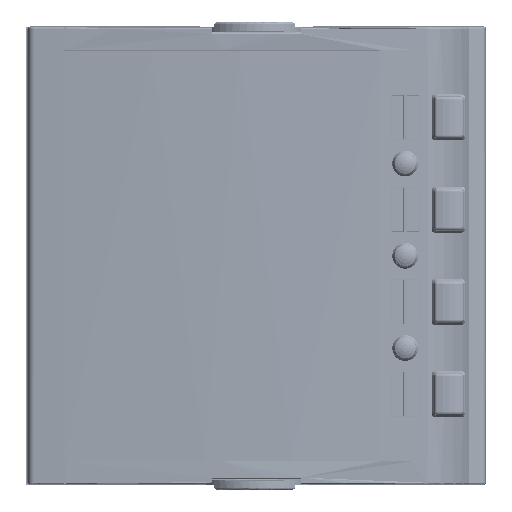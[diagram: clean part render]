
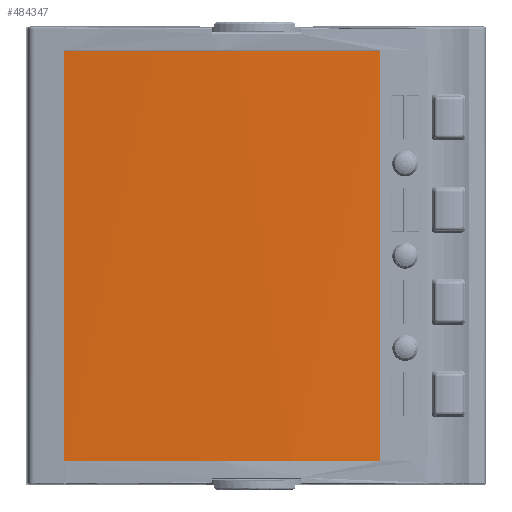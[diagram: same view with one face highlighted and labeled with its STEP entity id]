
A CAD part, left-side view. The second image highlights one B-rep face of the part: STEP entity #484347.
In plain terms, the highlighted cylindrical face has radius 446.23 mm (diameter 892.461 mm), a partial arc.
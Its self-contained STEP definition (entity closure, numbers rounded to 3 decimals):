
#468932=CARTESIAN_POINT('',(4.158,88.476,
-91.078));
#468933=CARTESIAN_POINT('',(3.535,81.157,
-91.077));
#468934=CARTESIAN_POINT('',(2.65,66.488,
-91.076));
#468935=CARTESIAN_POINT('',(2.411,44.447,
-91.076));
#468936=CARTESIAN_POINT('',(2.977,29.762,
-91.076));
#468937=CARTESIAN_POINT('',(3.441,22.433,
-91.078));
#468939=CARTESIAN_POINT('',(3.441,22.433,
-91.078));
#468981=CARTESIAN_POINT('',(3.441,22.437,
-5.258));
#468983=CARTESIAN_POINT('',(3.441,22.437,
-5.258));
#468984=CARTESIAN_POINT('',(2.977,29.767,
-5.259));
#468985=CARTESIAN_POINT('',(2.411,44.453,
-5.258));
#468986=CARTESIAN_POINT('',(2.65,66.49,
-5.26));
#468987=CARTESIAN_POINT('',(3.535,81.158,
-5.256));
#468988=CARTESIAN_POINT('',(4.158,88.476,
-5.254));
#469015=DIRECTION('',(0.,0.,-1.));
#469016=VECTOR('',#469015,85.82);
#469017=CARTESIAN_POINT('',(3.441,22.437,
-5.258));
#469018=LINE('',#469017,#469016);
#469019=DIRECTION('',(0.,0.,-1.));
#469020=VECTOR('',#469019,85.824);
#469021=CARTESIAN_POINT('',(4.158,88.476,
-5.254));
#469022=LINE('',#469021,#469020);
#471342=VERTEX_POINT('',#468981);
#471343=VERTEX_POINT('',#468939);
#471344=VERTEX_POINT('',#468988);
#471345=VERTEX_POINT('',#468932);
#484335=CARTESIAN_POINT('',(448.78,50.626,
-92.796));
#484336=DIRECTION('',(0.,0.,1.));
#484337=DIRECTION('',(-0.996,0.085,0.));
#484338=AXIS2_PLACEMENT_3D('',#484335,#484336,#484337);
#484339=CYLINDRICAL_SURFACE('',#484338,446.23);
#484340=ORIENTED_EDGE('',*,*,#484298,.F.);
#484341=ORIENTED_EDGE('',*,*,#484330,.T.);
#484342=ORIENTED_EDGE('',*,*,#484262,.F.);
#484344=ORIENTED_EDGE('',*,*,#484343,.F.);
#484345=EDGE_LOOP('',(#484340,#484341,#484342,#484344));
#484346=FACE_OUTER_BOUND('',#484345,.F.);
#468938=B_SPLINE_CURVE_WITH_KNOTS('',3,(#468932,#468933,#468934,#468935,#468936,
#468937),.UNSPECIFIED.,.F.,.F.,(4,1,1,4),(0.,0.333,
0.667,1.),.UNSPECIFIED.);
#468989=B_SPLINE_CURVE_WITH_KNOTS('',3,(#468983,#468984,#468985,#468986,#468987,
#468988),.UNSPECIFIED.,.F.,.F.,(4,1,1,4),(0.,0.333,
0.667,1.),.UNSPECIFIED.);
#484262=EDGE_CURVE('',#471345,#471343,#468938,.T.);
#484298=EDGE_CURVE('',#471342,#471344,#468989,.T.);
#484330=EDGE_CURVE('',#471342,#471343,#469018,.T.);
#484343=EDGE_CURVE('',#471344,#471345,#469022,.T.);
#484347=ADVANCED_FACE('',(#484346),#484339,.T.);
